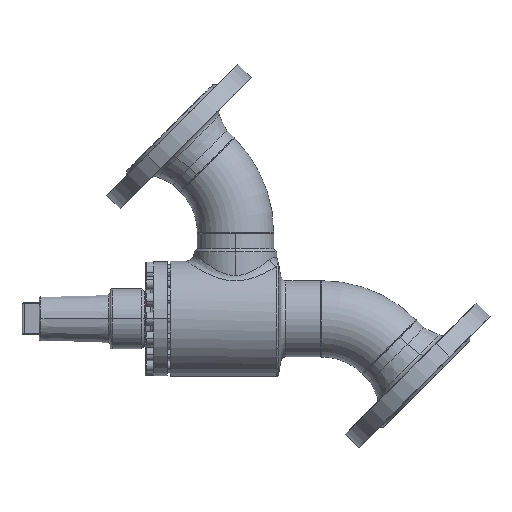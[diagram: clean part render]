
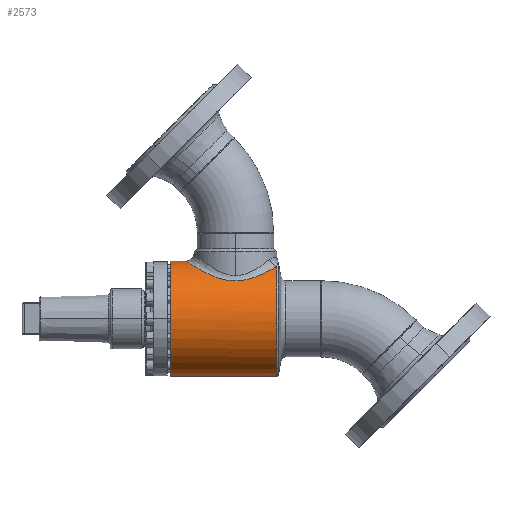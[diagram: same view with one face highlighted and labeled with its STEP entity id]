
A CAD part, left-side view. The second image highlights one B-rep face of the part: STEP entity #2573.
In plain terms, the highlighted cylindrical face has radius 57.5 mm (diameter 115 mm), a partial arc.
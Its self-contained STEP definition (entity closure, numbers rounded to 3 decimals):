
#17364 = VERTEX_POINT ( 'NONE', #3382 ) ;
#17634 = EDGE_CURVE ( 'NONE', #9583, #17364, #3513, .T. ) ;
#1275 = CARTESIAN_POINT ( 'NONE',  ( 0., -15.7, 57.5 ) ) ;
#1492 = LINE ( 'NONE', #1493, #1494 ) ;
#1493 = CARTESIAN_POINT ( 'NONE',  ( 0., -111., 57.5 ) ) ;
#1494 = VECTOR ( 'NONE', #1495, 1000. ) ;
#1495 = DIRECTION ( 'NONE',  ( 0., 1., 0. ) ) ;
#2293 = CARTESIAN_POINT ( 'NONE',  ( 0., 0., 57.5 ) ) ;
#2330 = EDGE_LOOP ( 'NONE', ( #11330, #10812, #9527, #8626, #8100 ) ) ;
#2573 = ADVANCED_FACE ( 'NONE', ( #20202 ), #20203, .T. ) ;
#3382 = CARTESIAN_POINT ( 'NONE',  ( 0., 0., -57.5 ) ) ;
#3513 = LINE ( 'NONE', #3514, #3515 ) ;
#3514 = CARTESIAN_POINT ( 'NONE',  ( 0., -111., -57.5 ) ) ;
#3515 = VECTOR ( 'NONE', #3516, 1000. ) ;
#3516 = DIRECTION ( 'NONE',  ( 0., 1., 0. ) ) ;
#20202 = FACE_OUTER_BOUND ( 'NONE', #2330, .T. ) ;
#20203 = CYLINDRICAL_SURFACE ( 'NONE', #20204, 57.5 ) ;
#20204 = AXIS2_PLACEMENT_3D ( 'NONE', #20205, #20206, #20210 ) ;
#20205 = CARTESIAN_POINT ( 'NONE',  ( 0., -111., 0. ) ) ;
#20206 = DIRECTION ( 'NONE',  ( 0., 1., 0. ) ) ;
#20210 = DIRECTION ( 'NONE',  ( 0., 0., 1. ) ) ;
#7731 = EDGE_CURVE ( 'NONE', #17364, #15273, #13415, .T. ) ;
#8100 = ORIENTED_EDGE ( 'NONE', *, *, #7731, .F. ) ;
#8626 = ORIENTED_EDGE ( 'NONE', *, *, #13964, .T. ) ;
#9151 = EDGE_CURVE ( 'NONE', #10206, #13734, #14904, .T. ) ;
#9527 = ORIENTED_EDGE ( 'NONE', *, *, #9151, .T. ) ;
#9583 = VERTEX_POINT ( 'NONE', #15654 ) ;
#10206 = VERTEX_POINT ( 'NONE', #16067 ) ;
#10433 = EDGE_CURVE ( 'NONE', #9583, #10206, #15143, .T. ) ;
#10812 = ORIENTED_EDGE ( 'NONE', *, *, #10433, .T. ) ;
#11330 = ORIENTED_EDGE ( 'NONE', *, *, #17634, .F. ) ;
#13415 = CIRCLE ( 'NONE', #13416, 57.5 ) ;
#13416 = AXIS2_PLACEMENT_3D ( 'NONE', #13417, #13420, #13421 ) ;
#13417 = CARTESIAN_POINT ( 'NONE',  ( 0., 0., 0. ) ) ;
#13420 = DIRECTION ( 'NONE',  ( 0., 1., 0. ) ) ;
#13421 = DIRECTION ( 'NONE',  ( 0., 0., 1. ) ) ;
#13734 = VERTEX_POINT ( 'NONE', #1275 ) ;
#13964 = EDGE_CURVE ( 'NONE', #13734, #15273, #1492, .T. ) ;
#14904 = B_SPLINE_CURVE_WITH_KNOTS ( 'NONE', 3,
 ( #14905, #14906, #14907, #14908, #14909, #14910, #14911, #14912, #14913, #14914, #14915, #14916, #14917, #14918, #14919, #14937, #14938, #14939, #14940, #14941, #14942, #14943, #14944, #14945, #14946, #14947, #14948, #14949, #14950, #14951, #14952, #14970, #14971, #14972, #14973, #14974, #14975, #14976, #14977, #14978, #14979, #14980, #14981, #14982, #14983, #14984, #14985, #15007, #15008, #15009, #15010, #15011, #15012, #15013, #15014, #15015, #15016, #15017, #15018, #15019, #15020, #15021 ),
 .UNSPECIFIED., .F., .F.,
 ( 4, 2, 2, 2, 2, 2, 2, 2, 2, 2, 2, 2, 2, 2, 2, 2, 2, 2, 2, 2, 2, 2, 2, 2, 2, 2, 2, 2, 2, 2, 4 ),
 ( 0., 0.008, 0.016, 0.017, 0.019, 0.023, 0.031, 0.035, 0.039, 0.047, 0.049, 0.05, 0.054, 0.058, 0.06, 0.062, 0.07, 0.074, 0.078, 0.085, 0.089, 0.091, 0.093, 0.101, 0.105, 0.107, 0.109, 0.116, 0.118, 0.12, 0.124 ),
 .UNSPECIFIED. ) ;
#14905 = CARTESIAN_POINT ( 'NONE',  ( -24.174, -105.892, 52.171 ) ) ;
#14906 = CARTESIAN_POINT ( 'NONE',  ( -26.132, -104.39, 51.264 ) ) ;
#14907 = CARTESIAN_POINT ( 'NONE',  ( -27.915, -102.76, 50.305 ) ) ;
#14908 = CARTESIAN_POINT ( 'NONE',  ( -31.195, -99.268, 48.34 ) ) ;
#14909 = CARTESIAN_POINT ( 'NONE',  ( -32.691, -97.405, 47.333 ) ) ;
#14910 = CARTESIAN_POINT ( 'NONE',  ( -34.397, -94.927, 46.079 ) ) ;
#14911 = CARTESIAN_POINT ( 'NONE',  ( -34.73, -94.424, 45.829 ) ) ;
#14912 = CARTESIAN_POINT ( 'NONE',  ( -35.379, -93.402, 45.329 ) ) ;
#14913 = CARTESIAN_POINT ( 'NONE',  ( -35.695, -92.884, 45.08 ) ) ;
#14914 = CARTESIAN_POINT ( 'NONE',  ( -36.613, -91.317, 44.344 ) ) ;
#14915 = CARTESIAN_POINT ( 'NONE',  ( -37.186, -90.253, 43.863 ) ) ;
#14916 = CARTESIAN_POINT ( 'NONE',  ( -38.793, -86.998, 42.466 ) ) ;
#14917 = CARTESIAN_POINT ( 'NONE',  ( -39.716, -84.747, 41.594 ) ) ;
#14918 = CARTESIAN_POINT ( 'NONE',  ( -40.882, -81.225, 40.437 ) ) ;
#14919 = CARTESIAN_POINT ( 'NONE',  ( -41.234, -80.027, 40.077 ) ) ;
#14937 = CARTESIAN_POINT ( 'NONE',  ( -41.862, -77.576, 39.421 ) ) ;
#14938 = CARTESIAN_POINT ( 'NONE',  ( -42.138, -76.319, 39.125 ) ) ;
#14939 = CARTESIAN_POINT ( 'NONE',  ( -42.831, -72.529, 38.37 ) ) ;
#14940 = CARTESIAN_POINT ( 'NONE',  ( -43.12, -69.961, 38.038 ) ) ;
#14941 = CARTESIAN_POINT ( 'NONE',  ( -43.257, -66.692, 37.883 ) ) ;
#14942 = CARTESIAN_POINT ( 'NONE',  ( -43.273, -66.034, 37.864 ) ) ;
#14943 = CARTESIAN_POINT ( 'NONE',  ( -43.282, -64.718, 37.854 ) ) ;
#14944 = CARTESIAN_POINT ( 'NONE',  ( -43.275, -64.063, 37.862 ) ) ;
#14945 = CARTESIAN_POINT ( 'NONE',  ( -43.219, -62.103, 37.926 ) ) ;
#14946 = CARTESIAN_POINT ( 'NONE',  ( -43.137, -60.806, 38.02 ) ) ;
#14947 = CARTESIAN_POINT ( 'NONE',  ( -42.884, -58.229, 38.305 ) ) ;
#14948 = CARTESIAN_POINT ( 'NONE',  ( -42.713, -56.95, 38.496 ) ) ;
#14949 = CARTESIAN_POINT ( 'NONE',  ( -42.391, -55.043, 38.85 ) ) ;
#14950 = CARTESIAN_POINT ( 'NONE',  ( -42.272, -54.408, 38.979 ) ) ;
#14951 = CARTESIAN_POINT ( 'NONE',  ( -42.014, -53.15, 39.257 ) ) ;
#14952 = CARTESIAN_POINT ( 'NONE',  ( -41.875, -52.528, 39.406 ) ) ;
#14970 = CARTESIAN_POINT ( 'NONE',  ( -41.13, -49.446, 40.191 ) ) ;
#14971 = CARTESIAN_POINT ( 'NONE',  ( -40.378, -47.077, 40.957 ) ) ;
#14972 = CARTESIAN_POINT ( 'NONE',  ( -39.022, -43.642, 42.237 ) ) ;
#14973 = CARTESIAN_POINT ( 'NONE',  ( -38.532, -42.517, 42.685 ) ) ;
#14974 = CARTESIAN_POINT ( 'NONE',  ( -37.473, -40.304, 43.618 ) ) ;
#14975 = CARTESIAN_POINT ( 'NONE',  ( -36.908, -39.223, 44.098 ) ) ;
#14976 = CARTESIAN_POINT ( 'NONE',  ( -35.115, -36.073, 45.559 ) ) ;
#14977 = CARTESIAN_POINT ( 'NONE',  ( -33.785, -34.085, 46.562 ) ) ;
#14978 = CARTESIAN_POINT ( 'NONE',  ( -31.574, -31.259, 48.064 ) ) ;
#14979 = CARTESIAN_POINT ( 'NONE',  ( -30.801, -30.343, 48.564 ) ) ;
#14980 = CARTESIAN_POINT ( 'NONE',  ( -29.582, -29.009, 49.309 ) ) ;
#14981 = CARTESIAN_POINT ( 'NONE',  ( -29.166, -28.57, 49.557 ) ) ;
#14982 = CARTESIAN_POINT ( 'NONE',  ( -28.313, -27.708, 50.049 ) ) ;
#14983 = CARTESIAN_POINT ( 'NONE',  ( -27.875, -27.282, 50.294 ) ) ;
#14984 = CARTESIAN_POINT ( 'NONE',  ( -25.646, -25.201, 51.504 ) ) ;
#14985 = CARTESIAN_POINT ( 'NONE',  ( -23.737, -23.688, 52.419 ) ) ;
#15007 = CARTESIAN_POINT ( 'NONE',  ( -20.66, -21.659, 53.671 ) ) ;
#15008 = CARTESIAN_POINT ( 'NONE',  ( -19.599, -21.023, 54.069 ) ) ;
#15009 = CARTESIAN_POINT ( 'NONE',  ( -17.948, -20.134, 54.63 ) ) ;
#15010 = CARTESIAN_POINT ( 'NONE',  ( -17.388, -19.848, 54.811 ) ) ;
#15011 = CARTESIAN_POINT ( 'NONE',  ( -16.247, -19.3, 55.16 ) ) ;
#15012 = CARTESIAN_POINT ( 'NONE',  ( -15.665, -19.037, 55.328 ) ) ;
#15013 = CARTESIAN_POINT ( 'NONE',  ( -12.734, -17.796, 56.125 ) ) ;
#15014 = CARTESIAN_POINT ( 'NONE',  ( -10.302, -17.028, 56.627 ) ) ;
#15015 = CARTESIAN_POINT ( 'NONE',  ( -7.142, -16.371, 57.058 ) ) ;
#15016 = CARTESIAN_POINT ( 'NONE',  ( -6.505, -16.254, 57.135 ) ) ;
#15017 = CARTESIAN_POINT ( 'NONE',  ( -5.216, -16.054, 57.267 ) ) ;
#15018 = CARTESIAN_POINT ( 'NONE',  ( -4.563, -15.969, 57.322 ) ) ;
#15019 = CARTESIAN_POINT ( 'NONE',  ( -2.602, -15.766, 57.456 ) ) ;
#15020 = CARTESIAN_POINT ( 'NONE',  ( -1.298, -15.7, 57.5 ) ) ;
#15021 = CARTESIAN_POINT ( 'NONE',  ( 0., -15.7, 57.5 ) ) ;
#15143 = CIRCLE ( 'NONE', #15144, 57.5 ) ;
#15144 = AXIS2_PLACEMENT_3D ( 'NONE', #15145, #15146, #15147 ) ;
#15145 = CARTESIAN_POINT ( 'NONE',  ( 0., -105.892, 0. ) ) ;
#15146 = DIRECTION ( 'NONE',  ( 0., 1., 0. ) ) ;
#15147 = DIRECTION ( 'NONE',  ( 0., 0., -1. ) ) ;
#15273 = VERTEX_POINT ( 'NONE', #2293 ) ;
#15654 = CARTESIAN_POINT ( 'NONE',  ( 0., -105.892, -57.5 ) ) ;
#16067 = CARTESIAN_POINT ( 'NONE',  ( -24.174, -105.892, 52.171 ) ) ;
